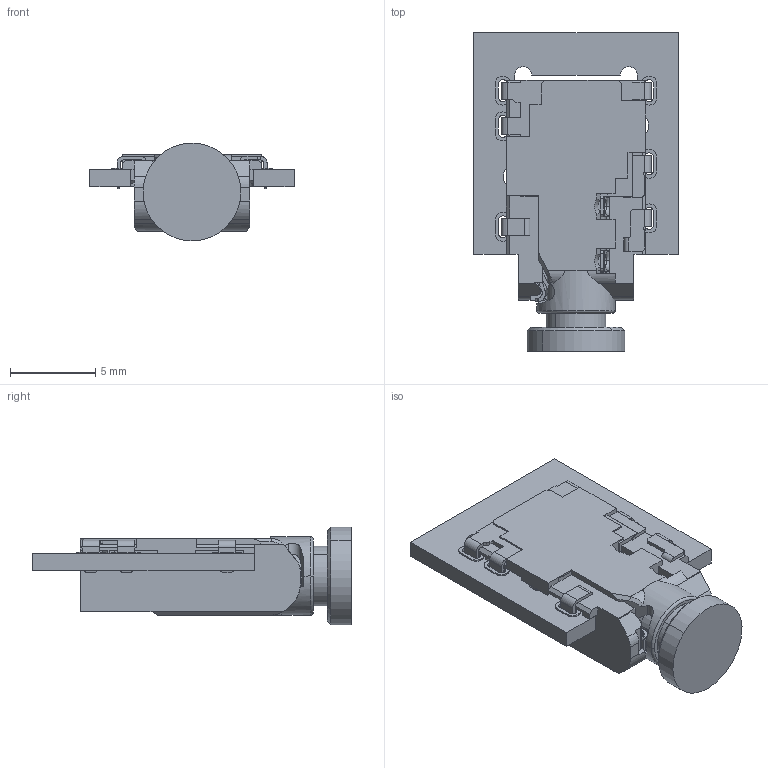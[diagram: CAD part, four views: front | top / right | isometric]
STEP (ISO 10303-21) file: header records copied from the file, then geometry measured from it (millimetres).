
FILE_DESCRIPTION (( 'STEP AP214' ), '1' );
FILE_NAME ('J3D-XX-す諳3D源偶.STEP', '2023-04-20T02:38:27', ( '' ), ( '' ), 'SwSTEP 2.0', 'SolidWorks 2016', '' );
FILE_SCHEMA (( 'AUTOMOTIVE_DESIGN' ));
Length unit declared in the file: millimetre
Products named in the file (4): J3D-XXす諳源偶; J3D-XX-す諳3D源偶; 3_5MM_PLUG; PCB
Assembly tree (3 placements, depth 2):
  J3D-XX-す諳3D源偶
    J3D-XXす諳源偶
    3_5MM_PLUG
    PCB
Bounding box: 12 x 18.7 x 5.74 mm (x, y, z)
Volume: 498.9 mm3; surface area: 1087.2 mm2
Topology: 3 solids, 4 shells, 621 faces, 1708 edges, 1100 vertices
Faces by surface type: plane 369, cylinder 173, bspline 31, cone 30, sphere 10, torus 8
Entity records: 20836 total; most frequent: CARTESIAN_POINT 4778, ORIENTED_EDGE 3408, DIRECTION 3064, EDGE_CURVE 1704, VECTOR 1128, LINE 1128, VERTEX_POINT 1100, AXIS2_PLACEMENT_3D 968
